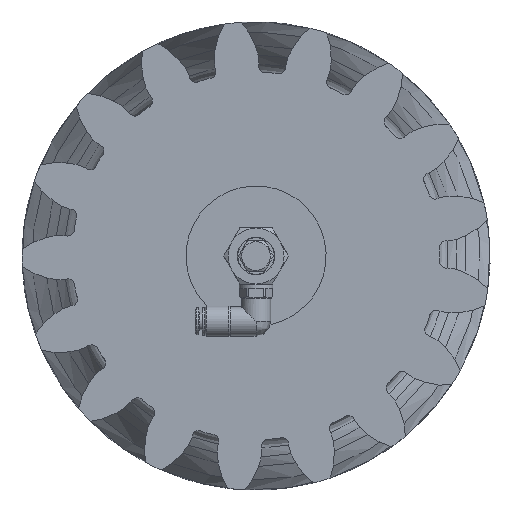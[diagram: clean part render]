
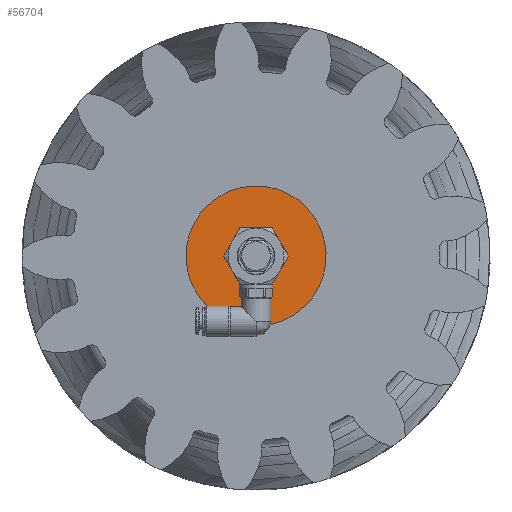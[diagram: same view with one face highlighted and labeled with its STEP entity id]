
A CAD part, front view. The second image highlights one B-rep face of the part: STEP entity #56704.
In plain terms, the highlighted planar face has unit normal (0, -1, 0) as drawn and (0, 0, 1) by its records, which use the part's own axes.
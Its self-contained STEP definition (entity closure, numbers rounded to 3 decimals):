
#791 = EDGE_CURVE ( 'NONE', #25275, #25275, #66062, .T. ) ;
#1158 = EDGE_CURVE ( 'NONE', #54359, #54359, #9853, .T. ) ;
#4510 = DIRECTION ( 'NONE',  ( 0., 0., 1. ) ) ;
#9853 = CIRCLE ( 'NONE', #18991, 5.286 ) ;
#12564 = DIRECTION ( 'NONE',  ( 1., 0., 0. ) ) ;
#16915 = DIRECTION ( 'NONE',  ( 1., 0., 0. ) ) ;
#17703 = CARTESIAN_POINT ( 'NONE',  ( 30., 0., 0. ) ) ;
#18991 = AXIS2_PLACEMENT_3D ( 'NONE', #76861, #4510, #16915 ) ;
#19714 = DIRECTION ( 'NONE',  ( 0., 0., 1. ) ) ;
#21089 = EDGE_LOOP ( 'NONE', ( #79717 ) ) ;
#25275 = VERTEX_POINT ( 'NONE', #17703 ) ;
#28037 = AXIS2_PLACEMENT_3D ( 'NONE', #84428, #19714, #12564 ) ;
#28412 = AXIS2_PLACEMENT_3D ( 'NONE', #34109, #92173, #42182 ) ;
#34109 = CARTESIAN_POINT ( 'NONE',  ( 0., 30., 0. ) ) ;
#34492 = ORIENTED_EDGE ( 'NONE', *, *, #791, .T. ) ;
#35492 = FACE_OUTER_BOUND ( 'NONE', #63325, .T. ) ;
#39568 = CARTESIAN_POINT ( 'NONE',  ( 5.286, 0., 0. ) ) ;
#42182 = DIRECTION ( 'NONE',  ( -1., 0., 0. ) ) ;
#42661 = PLANE ( 'NONE',  #28412 ) ;
#54359 = VERTEX_POINT ( 'NONE', #39568 ) ;
#56704 = ADVANCED_FACE ( 'NONE', ( #78817, #35492 ), #42661, .F. ) ;
#63325 = EDGE_LOOP ( 'NONE', ( #34492 ) ) ;
#66062 = CIRCLE ( 'NONE', #28037, 30. ) ;
#76861 = CARTESIAN_POINT ( 'NONE',  ( 0., 0., 0. ) ) ;
#78817 = FACE_BOUND ( 'NONE', #21089, .T. ) ;
#79717 = ORIENTED_EDGE ( 'NONE', *, *, #1158, .F. ) ;
#84428 = CARTESIAN_POINT ( 'NONE',  ( 0., 0., 0. ) ) ;
#92173 = DIRECTION ( 'NONE',  ( 0., 0., -1. ) ) ;
